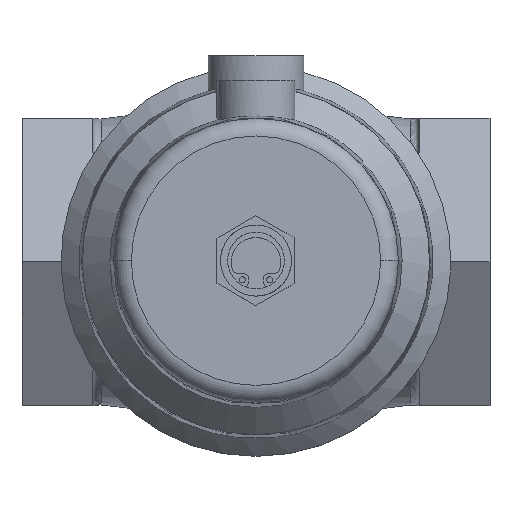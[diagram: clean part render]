
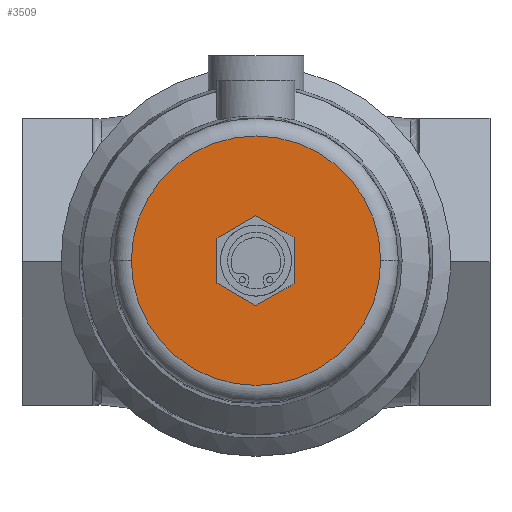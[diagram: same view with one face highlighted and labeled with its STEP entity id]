
A CAD part, top view. The second image highlights one B-rep face of the part: STEP entity #3509.
In plain terms, the highlighted planar face has unit normal (0, 0, 1).
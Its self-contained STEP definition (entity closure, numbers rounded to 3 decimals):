
#1242=CARTESIAN_POINT('',(0.,0.,211.));
#1243=DIRECTION('',(0.,0.,1.));
#1244=DIRECTION('',(-1.,0.,0.));
#1245=AXIS2_PLACEMENT_3D('',#1242,#1243,#1244);
#1247=CARTESIAN_POINT('',(0.,0.,211.));
#1248=DIRECTION('',(0.,0.,1.));
#1249=DIRECTION('',(1.,0.,0.));
#1250=AXIS2_PLACEMENT_3D('',#1247,#1248,#1249);
#1252=DIRECTION('',(0.866,0.5,0.));
#1253=VECTOR('',#1252,12.702);
#1254=CARTESIAN_POINT('',(0.,-12.702,211.));
#1255=LINE('',#1254,#1253);
#1256=DIRECTION('',(0.,1.,0.));
#1257=VECTOR('',#1256,12.702);
#1258=CARTESIAN_POINT('',(11.,-6.351,211.));
#1259=LINE('',#1258,#1257);
#1260=DIRECTION('',(-0.866,0.5,0.));
#1261=VECTOR('',#1260,12.702);
#1262=CARTESIAN_POINT('',(11.,6.351,211.));
#1263=LINE('',#1262,#1261);
#1264=DIRECTION('',(-0.866,-0.5,0.));
#1265=VECTOR('',#1264,12.702);
#1266=CARTESIAN_POINT('',(0.,12.702,211.));
#1267=LINE('',#1266,#1265);
#1268=DIRECTION('',(0.,-1.,0.));
#1269=VECTOR('',#1268,12.702);
#1270=CARTESIAN_POINT('',(-11.,6.351,211.));
#1271=LINE('',#1270,#1269);
#1272=DIRECTION('',(0.866,-0.5,0.));
#1273=VECTOR('',#1272,12.702);
#1274=CARTESIAN_POINT('',(-11.,-6.351,211.));
#1275=LINE('',#1274,#1273);
#1732=CARTESIAN_POINT('',(-35.175,0.,211.));
#1733=CARTESIAN_POINT('',(35.175,0.,211.));
#1734=VERTEX_POINT('',#1732);
#1735=VERTEX_POINT('',#1733);
#1780=CARTESIAN_POINT('',(0.,-12.702,211.));
#1781=CARTESIAN_POINT('',(11.,-6.351,211.));
#1782=VERTEX_POINT('',#1780);
#1783=VERTEX_POINT('',#1781);
#1784=CARTESIAN_POINT('',(11.,6.351,211.));
#1785=VERTEX_POINT('',#1784);
#1786=CARTESIAN_POINT('',(0.,12.702,211.));
#1787=VERTEX_POINT('',#1786);
#1788=CARTESIAN_POINT('',(-11.,6.351,211.));
#1789=VERTEX_POINT('',#1788);
#1790=CARTESIAN_POINT('',(-11.,-6.351,211.));
#1791=VERTEX_POINT('',#1790);
#3485=CARTESIAN_POINT('',(0.,0.,211.));
#3486=DIRECTION('',(0.,0.,-1.));
#3487=DIRECTION('',(1.,0.,0.));
#3488=AXIS2_PLACEMENT_3D('',#3485,#3486,#3487);
#3489=PLANE('',#3488);
#3490=ORIENTED_EDGE('',*,*,#3475,.F.);
#3492=ORIENTED_EDGE('',*,*,#3491,.F.);
#3493=EDGE_LOOP('',(#3490,#3492));
#3494=FACE_OUTER_BOUND('',#3493,.F.);
#3496=ORIENTED_EDGE('',*,*,#3495,.T.);
#3498=ORIENTED_EDGE('',*,*,#3497,.T.);
#3500=ORIENTED_EDGE('',*,*,#3499,.T.);
#3502=ORIENTED_EDGE('',*,*,#3501,.T.);
#3504=ORIENTED_EDGE('',*,*,#3503,.T.);
#3506=ORIENTED_EDGE('',*,*,#3505,.T.);
#3507=EDGE_LOOP('',(#3496,#3498,#3500,#3502,#3504,#3506));
#3508=FACE_BOUND('',#3507,.F.);
#3509=ADVANCED_FACE('',(#3494,#3508),#3489,.F.);
#1246=CIRCLE('',#1245,35.175);
#1251=CIRCLE('',#1250,35.175);
#3475=EDGE_CURVE('',#1734,#1735,#1246,.T.);
#3491=EDGE_CURVE('',#1735,#1734,#1251,.T.);
#3495=EDGE_CURVE('',#1782,#1783,#1255,.T.);
#3497=EDGE_CURVE('',#1783,#1785,#1259,.T.);
#3499=EDGE_CURVE('',#1785,#1787,#1263,.T.);
#3501=EDGE_CURVE('',#1787,#1789,#1267,.T.);
#3503=EDGE_CURVE('',#1789,#1791,#1271,.T.);
#3505=EDGE_CURVE('',#1791,#1782,#1275,.T.);
